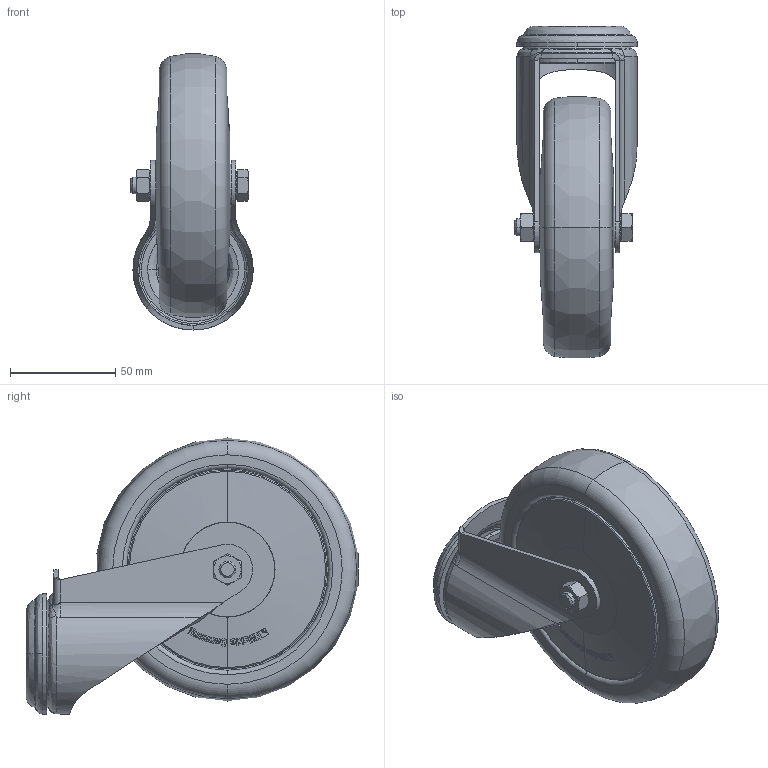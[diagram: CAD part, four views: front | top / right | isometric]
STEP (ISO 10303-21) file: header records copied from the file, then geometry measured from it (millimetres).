
FILE_DESCRIPTION (( 'STEP AP214' ), '1' );
FILE_NAME ('LKRXA-TPA_126KD-FK_574574-214.step', '2012-10-20T06:30:43', ( 'Matthias Senn' ), ( 'Blickle Räder+Rollen' ), 'SwSTEP 2.0', 'SolidWorks 2010', '' );
FILE_SCHEMA (( 'AUTOMOTIVE_DESIGN' ));
Length unit declared in the file: millimetre
Products named in the file (4): TPA-K-FK_G15_TPA_126_8KD-FK; GH-LKRXA_125-13_G15; AM_LKRXA_12x36_G_G15; LKRXA-TPA_126KD-FK_574574-214
Assembly tree (3 placements, depth 2):
  LKRXA-TPA_126KD-FK_574574-214
    GH-LKRXA_125-13_G15
    TPA-K-FK_G15_TPA_126_8KD-FK
    AM_LKRXA_12x36_G_G15
Bounding box: 58 x 157.4 x 130.86 mm (x, y, z)
Volume: 435067.3 mm3; surface area: 69267.5 mm2
Topology: 3 solids, 3 shells, 983 faces, 2552 edges, 1665 vertices
Faces by surface type: plane 500, bspline 312, cone 99, cylinder 46, torus 26
Entity records: 61505 total; most frequent: CARTESIAN_POINT 29539, ORIENTED_EDGE 5104, DIRECTION 3034, EDGE_CURVE 2552, VERTEX_POINT 1665, B_SPLINE_CURVE_WITH_KNOTS 1159, LINE 1078, VECTOR 1078
